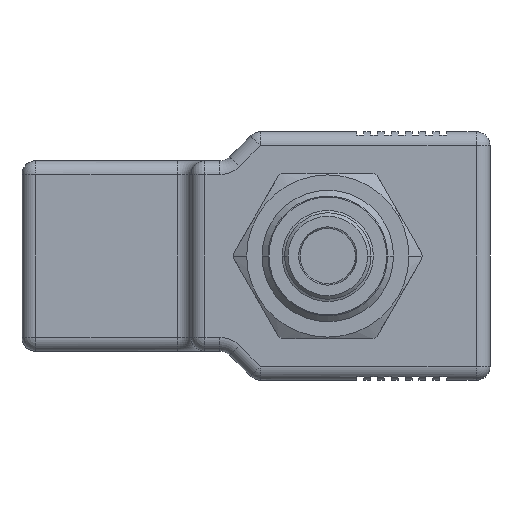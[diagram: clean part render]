
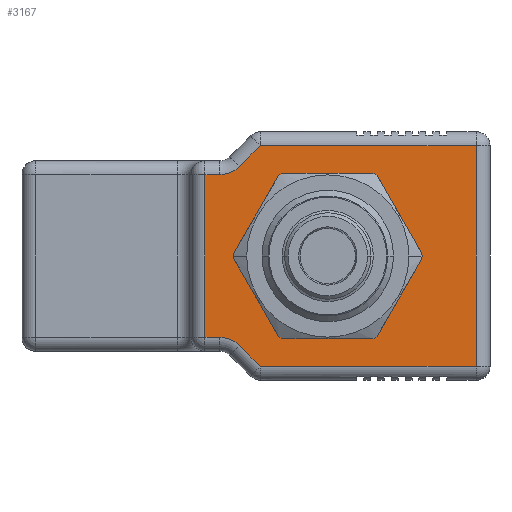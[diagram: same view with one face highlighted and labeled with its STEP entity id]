
A CAD part, left-side view. The second image highlights one B-rep face of the part: STEP entity #3167.
In plain terms, the highlighted planar face has unit normal (-1, 0, 0).
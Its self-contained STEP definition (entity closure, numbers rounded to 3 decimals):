
#66=DIRECTION('',(0.,0.707,0.707));
#67=VECTOR('',#66,4.283);
#68=CARTESIAN_POINT('',(10.5,9.772,-16.));
#69=LINE('',#68,#67);
#70=CARTESIAN_POINT('',(10.5,15.628,-15.8));
#71=DIRECTION('',(-1.,0.,0.));
#72=DIRECTION('',(0.,-0.707,0.707));
#73=AXIS2_PLACEMENT_3D('',#70,#71,#72);
#75=CARTESIAN_POINT('',(10.5,15.628,15.8));
#76=DIRECTION('',(-1.,0.,0.));
#77=DIRECTION('',(0.,0.,-1.));
#78=AXIS2_PLACEMENT_3D('',#75,#76,#77);
#80=DIRECTION('',(0.,-0.707,0.707));
#81=VECTOR('',#80,4.283);
#82=CARTESIAN_POINT('',(10.5,12.8,12.972));
#83=LINE('',#82,#81);
#84=CARTESIAN_POINT('',(10.5,0.,0.));
#85=DIRECTION('',(-1.,0.,0.));
#86=DIRECTION('',(0.,-1.,0.));
#87=AXIS2_PLACEMENT_3D('',#84,#85,#86);
#89=CARTESIAN_POINT('',(10.5,0.,0.));
#90=DIRECTION('',(-1.,0.,0.));
#91=DIRECTION('',(0.,1.,0.));
#92=AXIS2_PLACEMENT_3D('',#89,#90,#91);
#98=DIRECTION('',(0.,0.,1.));
#99=VECTOR('',#98,32.);
#100=CARTESIAN_POINT('',(10.5,-21.5,-16.));
#101=LINE('',#100,#99);
#130=DIRECTION('',(0.,1.,0.));
#131=VECTOR('',#130,31.272);
#132=CARTESIAN_POINT('',(10.5,-21.5,16.));
#133=LINE('',#132,#131);
#380=DIRECTION('',(0.,0.,-1.));
#381=VECTOR('',#380,23.6);
#382=CARTESIAN_POINT('',(10.5,17.8,11.8));
#383=LINE('',#382,#381);
#399=DIRECTION('',(0.,1.,0.));
#400=VECTOR('',#399,2.172);
#401=CARTESIAN_POINT('',(10.5,15.628,11.8));
#402=LINE('',#401,#400);
#509=DIRECTION('',(0.,-1.,0.));
#510=VECTOR('',#509,2.172);
#511=CARTESIAN_POINT('',(10.5,17.8,-11.8));
#512=LINE('',#511,#510);
#612=DIRECTION('',(0.,-1.,0.));
#613=VECTOR('',#612,31.272);
#614=CARTESIAN_POINT('',(10.5,9.772,-16.));
#615=LINE('',#614,#613);
#2496=CARTESIAN_POINT('',(10.5,-21.5,-16.));
#2498=VERTEX_POINT('',#2496);
#2561=CARTESIAN_POINT('',(10.5,9.772,-16.));
#2563=VERTEX_POINT('',#2561);
#2639=CARTESIAN_POINT('',(10.5,-21.5,16.));
#2640=VERTEX_POINT('',#2639);
#2641=CARTESIAN_POINT('',(10.5,12.8,-12.972));
#2642=VERTEX_POINT('',#2641);
#2643=CARTESIAN_POINT('',(10.5,15.628,-11.8));
#2644=VERTEX_POINT('',#2643);
#2645=CARTESIAN_POINT('',(10.5,17.8,-11.8));
#2646=VERTEX_POINT('',#2645);
#2647=CARTESIAN_POINT('',(10.5,17.8,11.8));
#2648=VERTEX_POINT('',#2647);
#2649=CARTESIAN_POINT('',(10.5,15.628,11.8));
#2650=VERTEX_POINT('',#2649);
#2651=CARTESIAN_POINT('',(10.5,12.8,12.972));
#2652=VERTEX_POINT('',#2651);
#2653=CARTESIAN_POINT('',(10.5,9.772,16.));
#2654=VERTEX_POINT('',#2653);
#2655=CARTESIAN_POINT('',(10.5,-11.565,0.));
#2656=CARTESIAN_POINT('',(10.5,11.565,0.));
#2657=VERTEX_POINT('',#2655);
#2658=VERTEX_POINT('',#2656);
#3135=CARTESIAN_POINT('',(10.5,24.3,-16.));
#3136=DIRECTION('',(-1.,0.,0.));
#3137=DIRECTION('',(0.,0.,1.));
#3138=AXIS2_PLACEMENT_3D('',#3135,#3136,#3137);
#3139=PLANE('',#3138);
#3141=ORIENTED_EDGE('',*,*,#3140,.F.);
#3143=ORIENTED_EDGE('',*,*,#3142,.F.);
#3145=ORIENTED_EDGE('',*,*,#3144,.T.);
#3147=ORIENTED_EDGE('',*,*,#3146,.T.);
#3149=ORIENTED_EDGE('',*,*,#3148,.F.);
#3151=ORIENTED_EDGE('',*,*,#3150,.F.);
#3153=ORIENTED_EDGE('',*,*,#3152,.F.);
#3155=ORIENTED_EDGE('',*,*,#3154,.T.);
#3157=ORIENTED_EDGE('',*,*,#3156,.T.);
#3159=ORIENTED_EDGE('',*,*,#3158,.F.);
#3160=EDGE_LOOP('',(#3141,#3143,#3145,#3147,#3149,#3151,#3153,#3155,#3157,
#3159));
#3161=FACE_OUTER_BOUND('',#3160,.F.);
#3162=ORIENTED_EDGE('',*,*,#3114,.T.);
#3164=ORIENTED_EDGE('',*,*,#3163,.T.);
#3165=EDGE_LOOP('',(#3162,#3164));
#3166=FACE_BOUND('',#3165,.F.);
#74=CIRCLE('',#73,4.);
#79=CIRCLE('',#78,4.);
#88=CIRCLE('',#87,11.565);
#93=CIRCLE('',#92,11.565);
#3114=EDGE_CURVE('',#2657,#2658,#88,.T.);
#3140=EDGE_CURVE('',#2498,#2640,#101,.T.);
#3142=EDGE_CURVE('',#2563,#2498,#615,.T.);
#3144=EDGE_CURVE('',#2563,#2642,#69,.T.);
#3146=EDGE_CURVE('',#2642,#2644,#74,.T.);
#3148=EDGE_CURVE('',#2646,#2644,#512,.T.);
#3150=EDGE_CURVE('',#2648,#2646,#383,.T.);
#3152=EDGE_CURVE('',#2650,#2648,#402,.T.);
#3154=EDGE_CURVE('',#2650,#2652,#79,.T.);
#3156=EDGE_CURVE('',#2652,#2654,#83,.T.);
#3158=EDGE_CURVE('',#2640,#2654,#133,.T.);
#3163=EDGE_CURVE('',#2658,#2657,#93,.T.);
#3167=ADVANCED_FACE('',(#3161,#3166),#3139,.T.);
